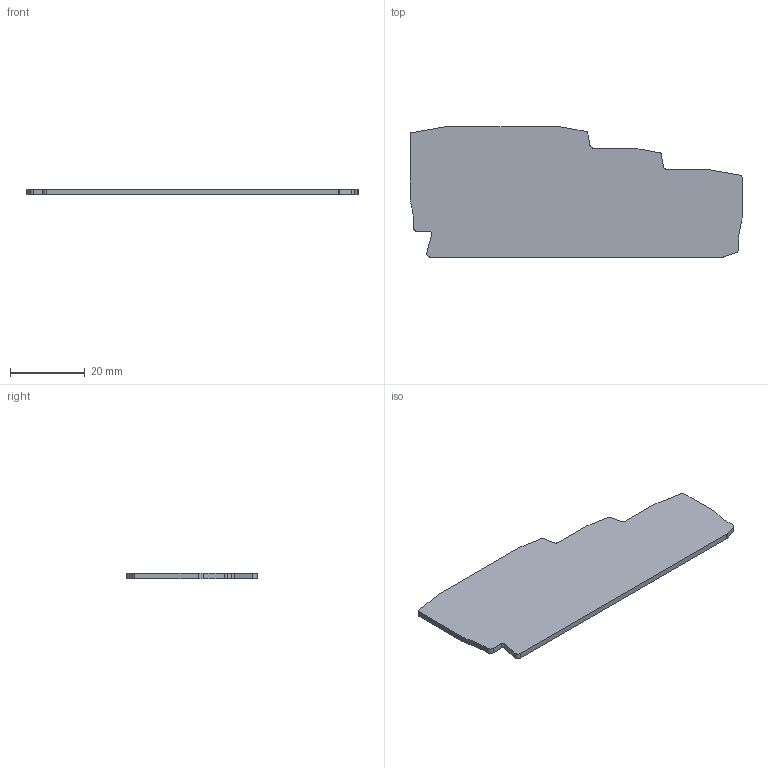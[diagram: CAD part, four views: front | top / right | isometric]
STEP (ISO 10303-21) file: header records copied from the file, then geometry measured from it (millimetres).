
FILE_DESCRIPTION(('Creo Elements/Direct Modeling STEP Export'),'2;1');
FILE_NAME('EFT.2_S_PT.stp','2019-07-26T13:33:57',(''),(''),'Creo Elements/Direct Modeling STEP processor for AP214 (Solid Model)','Creo Elements/Direct Modeling 20.1 10-Mar-2018 (C) Parametric Technology GmbH','');
FILE_SCHEMA(('AUTOMOTIVE_DESIGN { 1 0 10303 214 1 1 1 1 }'));
Length unit declared in the file: millimetre
Products named in the file (2): EFT.2_S_PT
Assembly tree (1 placements, depth 2):
  EFT.2_S_PT
    EFT.2_S_PT
Bounding box: 89 x 34.9 x 1.5 mm (x, y, z)
Volume: 4010.4 mm3; surface area: 5703.3 mm2
Topology: 1 solids, 1 shells, 33 faces, 93 edges, 62 vertices
Faces by surface type: plane 18, cylinder 15
Entity records: 1122 total; most frequent: DIRECTION 193, CARTESIAN_POINT 190, ORIENTED_EDGE 186, EDGE_CURVE 93, AXIS2_PLACEMENT_3D 65, VECTOR 63, LINE 63, VERTEX_POINT 62
